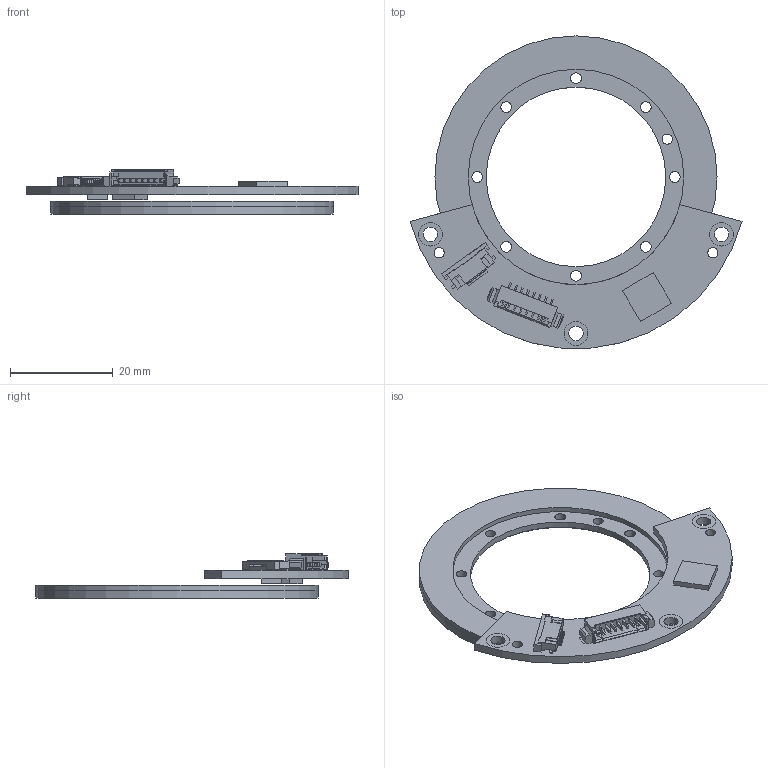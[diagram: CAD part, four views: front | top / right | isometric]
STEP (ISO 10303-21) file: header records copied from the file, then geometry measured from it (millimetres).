
FILE_DESCRIPTION (( 'STEP AP203' ), '1' );
FILE_NAME ('eCoder35.STEP', '2022-12-28T09:26:43', ( 'Windows User' ), ( 'P R C' ), 'SwSTEP 2.0', 'SolidWorks 2021', '' );
FILE_SCHEMA (( 'CONFIG_CONTROL_DESIGN' ));
Length unit declared in the file: millimetre
Products named in the file (1): eCoder35
Bounding box: 64.72 x 60.87 x 8.6 mm (x, y, z)
Volume: 4704.5 mm3; surface area: 8450.6 mm2
Topology: 19 solids, 19 shells, 766 faces, 2085 edges, 1378 vertices
Faces by surface type: plane 668, cylinder 97, cone 1
Full cylindrical faces by diameter (mm): 2 x3, 2.1 x8, 2.8 x3, 4.6 x3, 35 x1, 42 x1, 55 x2
Entity records: 23728 total; most frequent: CARTESIAN_POINT 4194, ORIENTED_EDGE 4112, DIRECTION 3785, EDGE_CURVE 2056, VECTOR 1861, LINE 1861, VERTEX_POINT 1371, AXIS2_PLACEMENT_3D 962
